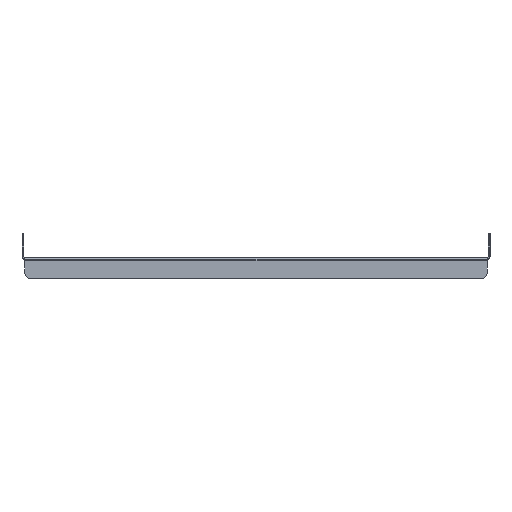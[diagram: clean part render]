
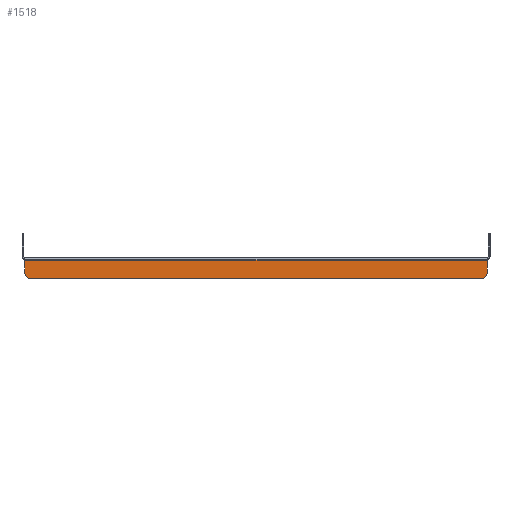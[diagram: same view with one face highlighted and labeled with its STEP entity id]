
A CAD part, left-side view. The second image highlights one B-rep face of the part: STEP entity #1518.
In plain terms, the highlighted planar face has unit normal (-1, 0, 0).
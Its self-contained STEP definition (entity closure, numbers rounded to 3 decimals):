
#1518 = ADVANCED_FACE( '', ( #4091 ), #4092, .T. );
#4091 = FACE_OUTER_BOUND( '', #7740, .T. );
#4092 = PLANE( '', #7741 );
#7740 = EDGE_LOOP( '', ( #13229, #13230, #13231, #13232, #13233, #13234 ) );
#7741 = AXIS2_PLACEMENT_3D( '', #13235, #13236, #13237 );
#13229 = ORIENTED_EDGE( '', *, *, #22713, .T. );
#13230 = ORIENTED_EDGE( '', *, *, #22682, .T. );
#13231 = ORIENTED_EDGE( '', *, *, #22714, .T. );
#13232 = ORIENTED_EDGE( '', *, *, #22715, .T. );
#13233 = ORIENTED_EDGE( '', *, *, #22716, .T. );
#13234 = ORIENTED_EDGE( '', *, *, #22460, .T. );
#13235 = CARTESIAN_POINT( '', ( -330.2, -222.682, 0.242 ) );
#13236 = DIRECTION( '', ( -1., 0., 0. ) );
#13237 = DIRECTION( '', ( 0., 0., 1. ) );
#22460 = EDGE_CURVE( '', #27894, #27891, #27895, .T. );
#22682 = EDGE_CURVE( '', #28219, #28220, #28221, .T. );
#22713 = EDGE_CURVE( '', #27891, #28219, #28266, .T. );
#22714 = EDGE_CURVE( '', #28220, #28267, #28268, .T. );
#22715 = EDGE_CURVE( '', #28267, #28269, #28270, .T. );
#22716 = EDGE_CURVE( '', #28269, #27894, #28271, .T. );
#27891 = VERTEX_POINT( '', #34974 );
#27894 = VERTEX_POINT( '', #34977 );
#27895 = LINE( '', #34978, #34979 );
#28219 = VERTEX_POINT( '', #35430 );
#28220 = VERTEX_POINT( '', #35431 );
#28221 = CIRCLE( '', #35432, 6.35 );
#28266 = LINE( '', #35494, #35495 );
#28267 = VERTEX_POINT( '', #35496 );
#28268 = LINE( '', #35497, #35498 );
#28269 = VERTEX_POINT( '', #35499 );
#28270 = CIRCLE( '', #35500, 6.35 );
#28271 = LINE( '', #35501, #35502 );
#34974 = CARTESIAN_POINT( '', ( -330.2, 222.682, -0.914 ) );
#34977 = CARTESIAN_POINT( '', ( -330.2, -222.682, -0.914 ) );
#34978 = CARTESIAN_POINT( '', ( -330.2, -222.682, -0.914 ) );
#34979 = VECTOR( '', #42145, 1000. );
#35430 = CARTESIAN_POINT( '', ( -330.2, 222.682, -12.471 ) );
#35431 = CARTESIAN_POINT( '', ( -330.2, 216.332, -18.821 ) );
#35432 = AXIS2_PLACEMENT_3D( '', #42375, #42376, #42377 );
#35494 = CARTESIAN_POINT( '', ( -330.2, 222.682, 0.242 ) );
#35495 = VECTOR( '', #42410, 1000. );
#35496 = CARTESIAN_POINT( '', ( -330.2, -216.332, -18.821 ) );
#35497 = CARTESIAN_POINT( '', ( -330.2, 222.682, -18.821 ) );
#35498 = VECTOR( '', #42411, 1000. );
#35499 = CARTESIAN_POINT( '', ( -330.2, -222.682, -12.471 ) );
#35500 = AXIS2_PLACEMENT_3D( '', #42412, #42413, #42414 );
#35501 = CARTESIAN_POINT( '', ( -330.2, -222.682, -18.821 ) );
#35502 = VECTOR( '', #42415, 1000. );
#42145 = DIRECTION( '', ( 0., 1., 0. ) );
#42375 = CARTESIAN_POINT( '', ( -330.2, 216.332, -12.471 ) );
#42376 = DIRECTION( '', ( -1., 0., 0. ) );
#42377 = DIRECTION( '', ( 0., 0., 1. ) );
#42410 = DIRECTION( '', ( 0., 0., -1. ) );
#42411 = DIRECTION( '', ( 0., -1., 0. ) );
#42412 = CARTESIAN_POINT( '', ( -330.2, -216.332, -12.471 ) );
#42413 = DIRECTION( '', ( -1., 0., 0. ) );
#42414 = DIRECTION( '', ( 0., 0., 1. ) );
#42415 = DIRECTION( '', ( 0., 0., 1. ) );
